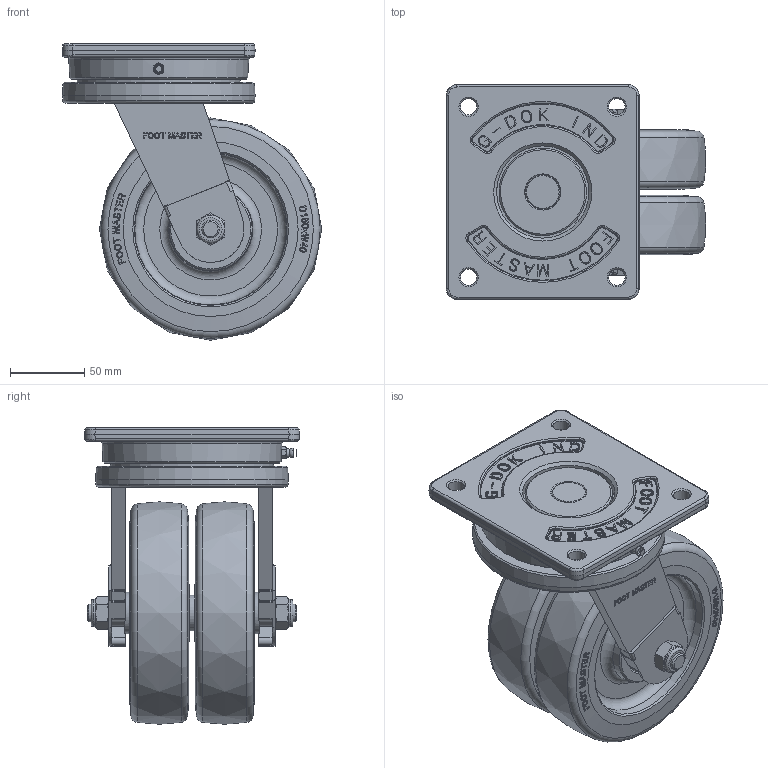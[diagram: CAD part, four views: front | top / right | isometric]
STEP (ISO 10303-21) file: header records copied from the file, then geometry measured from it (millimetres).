
FILE_DESCRIPTION(/* description */ (''),/* implementation_level */ '2;1');
FILE_NAME(/* name */ '\\192.168.10.38\지덕공유\1.기술연구소\1.도면\제품도면\1.양산품\27.AGVCASTER\AGV CASTER 125 150 SERIES_제품도면\3D\GXTD-150-ASF-HUD.stp',/* time_stamp */ '2026-07-21T16:27:57+09:00',/* author */ ('admin'),/* organization */ (''),/* preprocessor_version */ 'ST-DEVELOPER v18.1',/* originating_system */ 'Autodesk Inventor 2021',/* authorisation */ '');
FILE_SCHEMA (('CONFIG_CONTROL_DESIGN'));
Products named in the file (1): GXTD-150-ASF-HUD_형상단순화
Bounding box: 174.86 x 145 x 200 mm (x, y, z)
Volume: 1732357.3 mm3; surface area: 210998.3 mm2
Topology: 1 solids, 2 shells, 1542 faces, 4175 edges, 2767 vertices
Faces by surface type: plane 750, bspline 538, cone 126, cylinder 79, torus 48, sphere 1
Full cylindrical faces by diameter (mm): 4.917 x1, 11 x4, 12 x2, 18.5 x2, 24 x1, 28 x2, 40 x4, 59 x1, 62.2 x1, 110 x1
Entity records: 54519 total; most frequent: CARTESIAN_POINT 19178, ORIENTED_EDGE 8350, DIRECTION 4940, EDGE_CURVE 4175, VERTEX_POINT 2767, LINE 2018, VECTOR 2018, EDGE_LOOP 1686
